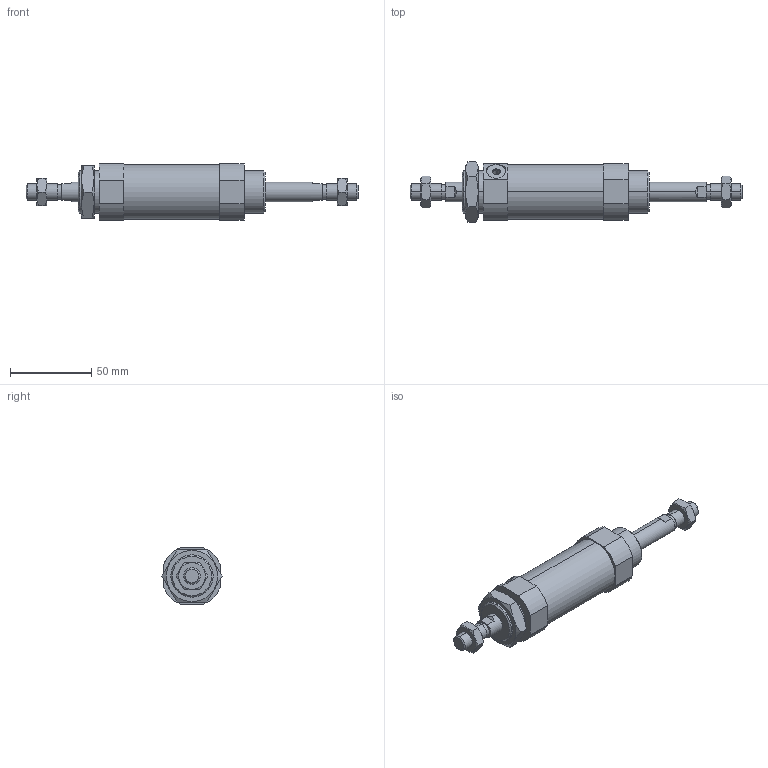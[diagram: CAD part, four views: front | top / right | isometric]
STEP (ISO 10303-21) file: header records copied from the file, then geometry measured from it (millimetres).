
FILE_DESCRIPTION (( 'STEP AP203' ), '1' );
FILE_NAME ('CSM2B32-25-P.STEP', '2020-07-20T16:45:37', ( '' ), ( '' ), 'SwSTEP 2.0', 'SolidWorks 2019', '' );
FILE_SCHEMA (( 'CONFIG_CONTROL_DESIGN' ));
Length unit declared in the file: millimetre
Products named in the file (1): CSM2B32-25-P
Bounding box: 204 x 36.95 x 34.5 mm (x, y, z)
Volume: 93319.4 mm3; surface area: 35254.1 mm2
Topology: 5 solids, 5 shells, 149 faces, 346 edges, 217 vertices
Faces by surface type: plane 57, cylinder 48, cone 44
Entity records: 5397 total; most frequent: CARTESIAN_POINT 1949, DIRECTION 714, ORIENTED_EDGE 680, EDGE_CURVE 340, AXIS2_PLACEMENT_3D 282, VERTEX_POINT 217, EDGE_LOOP 173, VECTOR 150
